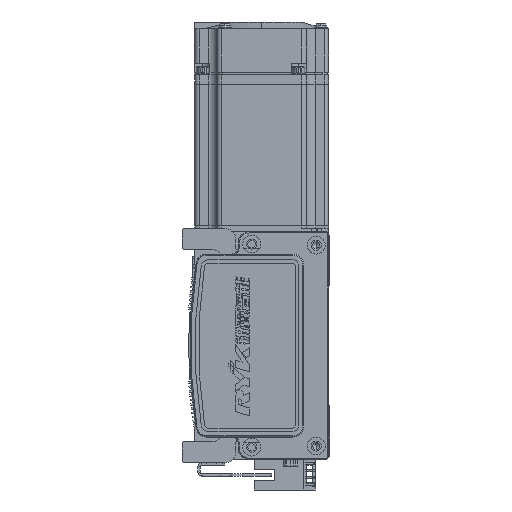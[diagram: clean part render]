
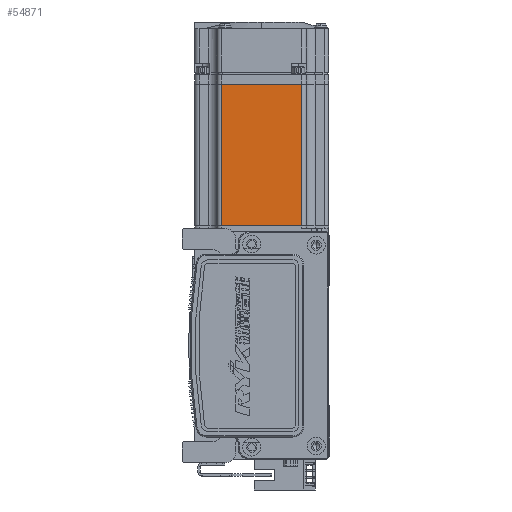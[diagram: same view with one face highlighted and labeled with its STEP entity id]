
A CAD part, left-side view. The second image highlights one B-rep face of the part: STEP entity #54871.
In plain terms, the highlighted planar face has unit normal (-1, 0, 0) as drawn and (0, 0, -1) by its records, which use the part's own axes.
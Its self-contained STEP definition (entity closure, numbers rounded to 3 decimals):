
#4778 = DIRECTION ( 'NONE',  ( -1., 0., 0. ) ) ;
#5805 = PLANE ( 'NONE',  #48968 ) ;
#6500 = CARTESIAN_POINT ( 'NONE',  ( -6.5, 25., -30. ) ) ;
#11780 = LINE ( 'NONE', #62732, #26931 ) ;
#17531 = LINE ( 'NONE', #61790, #26789 ) ;
#19526 = DIRECTION ( 'NONE',  ( 1., 0., 0. ) ) ;
#20810 = ORIENTED_EDGE ( 'NONE', *, *, #55687, .T. ) ;
#21513 = VECTOR ( 'NONE', #67716, 1000. ) ;
#23077 = CARTESIAN_POINT ( 'NONE',  ( -70.95, 18., -30. ) ) ;
#24529 = DIRECTION ( 'NONE',  ( 0., -1., 0. ) ) ;
#25448 = CARTESIAN_POINT ( 'NONE',  ( -70.95, 25., -30. ) ) ;
#26252 = CARTESIAN_POINT ( 'NONE',  ( -7.75, -18., -30. ) ) ;
#26789 = VECTOR ( 'NONE', #19526, 1000. ) ;
#26931 = VECTOR ( 'NONE', #24529, 1000. ) ;
#29654 = VECTOR ( 'NONE', #4778, 1000. ) ;
#32460 = DIRECTION ( 'NONE',  ( -1., 0., 0. ) ) ;
#32810 = CARTESIAN_POINT ( 'NONE',  ( -70.95, -18., -30. ) ) ;
#35020 = VERTEX_POINT ( 'NONE', #45299 ) ;
#38426 = LINE ( 'NONE', #25448, #21513 ) ;
#38443 = VERTEX_POINT ( 'NONE', #26252 ) ;
#41589 = LINE ( 'NONE', #53794, #29654 ) ;
#45299 = CARTESIAN_POINT ( 'NONE',  ( -7.75, 18., -30. ) ) ;
#47808 = ORIENTED_EDGE ( 'NONE', *, *, #50124, .T. ) ;
#48968 = AXIS2_PLACEMENT_3D ( 'NONE', #6500, #49186, #32460 ) ;
#49186 = DIRECTION ( 'NONE',  ( 0., 0., -1. ) ) ;
#50124 = EDGE_CURVE ( 'NONE', #38443, #64133, #41589, .T. ) ;
#53794 = CARTESIAN_POINT ( 'NONE',  ( -6.5, -18., -30. ) ) ;
#54561 = FACE_OUTER_BOUND ( 'NONE', #67503, .T. ) ;
#54871 = ADVANCED_FACE ( 'NONE', ( #54561 ), #5805, .T. ) ;
#55687 = EDGE_CURVE ( 'NONE', #64133, #65741, #38426, .T. ) ;
#58141 = ORIENTED_EDGE ( 'NONE', *, *, #58975, .T. ) ;
#58975 = EDGE_CURVE ( 'NONE', #35020, #38443, #11780, .T. ) ;
#61790 = CARTESIAN_POINT ( 'NONE',  ( -6.5, 18., -30. ) ) ;
#62732 = CARTESIAN_POINT ( 'NONE',  ( -7.75, 25., -30. ) ) ;
#64133 = VERTEX_POINT ( 'NONE', #32810 ) ;
#65741 = VERTEX_POINT ( 'NONE', #23077 ) ;
#66480 = EDGE_CURVE ( 'NONE', #65741, #35020, #17531, .T. ) ;
#67503 = EDGE_LOOP ( 'NONE', ( #58141, #47808, #20810, #70084 ) ) ;
#67716 = DIRECTION ( 'NONE',  ( 0., 1., 0. ) ) ;
#70084 = ORIENTED_EDGE ( 'NONE', *, *, #66480, .T. ) ;
